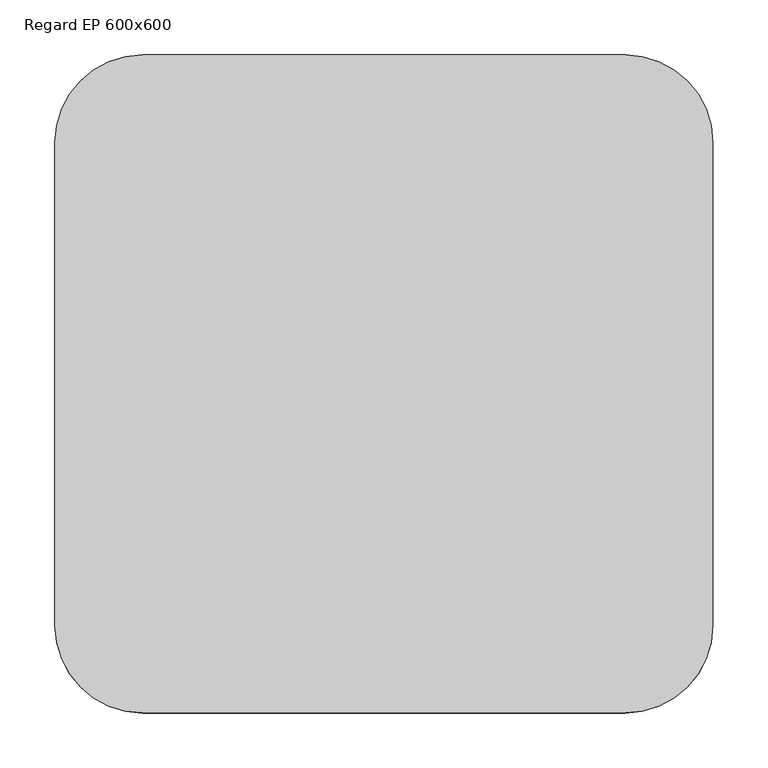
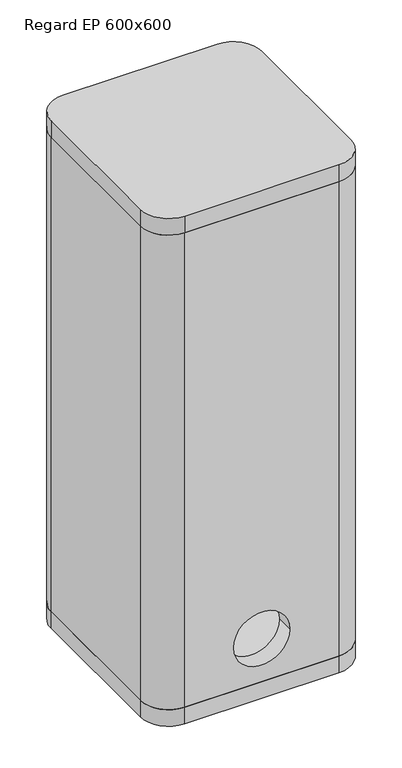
"""IFC4 building model written with IfcOpenShell, lengths in millimetres: valve geometry, Regard Eau pluviale 2 : Regard EP 600x600."""

from ifc_helpers import new_model, si_unit, point, frame, frame_2d, origin, place, context, project, spatial, polyline, circle_curve, trimmed, segment, composite_curve, outline, extrude, source, transform, mapped, element, save
from ifc_brep_helpers import plane_surface, cylinder_surface, revolved_surface, advanced_brep


def regard_ep_600x600_4da5fc17(model_context):
    return source(origin(), model_context, "Body", "SolidModel", [
        extrude(outline(composite_curve([segment(trimmed(circle_curve(frame_2d((220.0, 220.0)), 80.0), [point((220.0, 300.0))], [point((300.0, 220.0))], False, "CARTESIAN"), True, "CONTINUOUS"), segment(polyline([(300.0, 220.0), (300.0, -220.0)]), True, "CONTINUOUS"), segment(trimmed(circle_curve(frame_2d((220.0, -220.0)), 80.0), [point((300.0, -220.0))], [point((220.0, -300.0))], False, "CARTESIAN"), True, "CONTINUOUS"), segment(polyline([(220.0, -300.0), (-220.0, -300.0)]), True, "CONTINUOUS"), segment(trimmed(circle_curve(frame_2d((-220.0, -220.0)), 80.0), [point((-220.0, -300.0))], [point((-300.0, -220.0))], False, "CARTESIAN"), True, "CONTINUOUS"), segment(polyline([(-300.0, -220.0), (-300.0, 220.0)]), True, "CONTINUOUS"), segment(trimmed(circle_curve(frame_2d((-220.0, 220.0)), 80.0), [point((-300.0, 220.0))], [point((-220.0, 300.0))], False, "CARTESIAN"), True, "CONTINUOUS"), segment(polyline([(-220.0, 300.0), (220.0, 300.0)]), True, "CONTINUOUS")], self_intersect=False)), frame((0.0, 0.0, 870980.0), z_axis=(0.0, 0.0, 1.0), x_axis=(1.0, 0.0, 0.0)), (0.0, 0.0, 1.0), 50.0),
        extrude(outline(composite_curve([segment(trimmed(circle_curve(frame_2d((220.0, 220.0)), 80.0), [point((220.0, 300.0))], [point((300.0, 220.0))], False, "CARTESIAN"), True, "CONTINUOUS"), segment(polyline([(300.0, 220.0), (300.0, -220.0)]), True, "CONTINUOUS"), segment(trimmed(circle_curve(frame_2d((220.0, -220.0)), 80.0), [point((300.0, -220.0))], [point((220.0, -300.0))], False, "CARTESIAN"), True, "CONTINUOUS"), segment(polyline([(220.0, -300.0), (-220.0, -300.0)]), True, "CONTINUOUS"), segment(trimmed(circle_curve(frame_2d((-220.0, -220.0)), 80.0), [point((-220.0, -300.0))], [point((-300.0, -220.0))], False, "CARTESIAN"), True, "CONTINUOUS"), segment(polyline([(-300.0, -220.0), (-300.0, 220.0)]), True, "CONTINUOUS"), segment(trimmed(circle_curve(frame_2d((-220.0, 220.0)), 80.0), [point((-300.0, 220.0))], [point((-220.0, 300.0))], False, "CARTESIAN"), True, "CONTINUOUS"), segment(polyline([(-220.0, 300.0), (220.0, 300.0)]), True, "CONTINUOUS")], self_intersect=False)), frame((0.0, 0.0, 869500.0), z_axis=(0.0, 0.0, 1.0), x_axis=(1.0, 0.0, 0.0)), (0.0, 0.0, 1.0), 50.0),
        advanced_brep(
        [(300.0, -220.0, 870980.0), (300.0, 220.0, 870980.0), (220.0, 300.0, 870980.0), (-220.0, 300.0, 870980.0), (-300.0, 220.0, 870980.0), (-300.0, -220.0, 870980.0), (-220.0, -300.0, 870980.0), (220.0, -300.0, 870980.0), (-220.0, 250.0, 870980.0), (220.0, 250.0, 870980.0), (250.0, 220.0, 870980.0), (250.0, -220.0, 870980.0), (220.0, -250.0, 870980.0), (-220.0, -250.0, 870980.0), (-250.0, -220.0, 870980.0), (-250.0, 220.0, 870980.0), (300.0, -220.0, 869550.0), (220.0, -300.0, 869550.0), (-220.0, -300.0, 869550.0), (-300.0, -220.0, 869550.0), (-300.0, 220.0, 869550.0), (-220.0, 300.0, 869550.0), (220.0, 300.0, 869550.0), (300.0, 220.0, 869550.0), (-220.0, 250.0, 869550.0), (-250.0, 220.0, 869550.0), (-250.0, -220.0, 869550.0), (-220.0, -250.0, 869550.0), (220.0, -250.0, 869550.0), (250.0, -220.0, 869550.0), (250.0, 220.0, 869550.0), (220.0, 250.0, 869550.0), (-80.0, 300.0, 869680.0), (80.0, 300.0, 869680.0), (80.0, -300.0, 869680.0), (-80.0, -300.0, 869680.0), (80.0, -250.0, 869680.0), (-80.0, -250.0, 869680.0), (80.0, 250.0, 869680.0), (-80.0, 250.0, 869680.0)],
        [
            (0, 1),
            (1, 2, circle_curve(frame((220.0, 220.0, 870980.0), z_axis=(0.0, 0.0, 1.0), x_axis=(1.0, 0.0, 0.0)), 80.0)),
            (2, 3),
            (3, 4, circle_curve(frame((-220.0, 220.0, 870980.0), z_axis=(0.0, 0.0, 1.0), x_axis=(1.0, 0.0, 0.0)), 80.0)),
            (4, 5),
            (5, 6, circle_curve(frame((-220.0, -220.0, 870980.0), z_axis=(0.0, 0.0, 1.0), x_axis=(1.0, 0.0, 0.0)), 80.0)),
            (6, 7),
            (7, 0, circle_curve(frame((220.0, -220.0, 870980.0), z_axis=(0.0, 0.0, 1.0), x_axis=(1.0, 0.0, 0.0)), 80.0)),
            (8, 9),
            (9, 10, circle_curve(frame((220.0, 220.0, 870980.0), z_axis=(0.0, 0.0, -1.0), x_axis=(1.0, 0.0, 0.0)), 30.0)),
            (10, 11),
            (11, 12, circle_curve(frame((220.0, -220.0, 870980.0), z_axis=(0.0, 0.0, -1.0), x_axis=(1.0, 0.0, 0.0)), 30.0)),
            (12, 13),
            (13, 14, circle_curve(frame((-220.0, -220.0, 870980.0), z_axis=(0.0, 0.0, -1.0), x_axis=(1.0, 0.0, 0.0)), 30.0)),
            (14, 15),
            (15, 8, circle_curve(frame((-220.0, 220.0, 870980.0), z_axis=(0.0, 0.0, -1.0), x_axis=(1.0, 0.0, 0.0)), 30.0)),
            (16, 17, circle_curve(frame((220.0, -220.0, 869550.0), z_axis=(0.0, 0.0, -1.0), x_axis=(1.0, 0.0, 0.0)), 80.0)),
            (17, 18),
            (18, 19, circle_curve(frame((-220.0, -220.0, 869550.0), z_axis=(0.0, 0.0, -1.0), x_axis=(1.0, 0.0, 0.0)), 80.0)),
            (19, 20),
            (20, 21, circle_curve(frame((-220.0, 220.0, 869550.0), z_axis=(0.0, 0.0, -1.0), x_axis=(1.0, 0.0, 0.0)), 80.0)),
            (21, 22),
            (22, 23, circle_curve(frame((220.0, 220.0, 869550.0), z_axis=(0.0, 0.0, -1.0), x_axis=(1.0, 0.0, 0.0)), 80.0)),
            (23, 16),
            (24, 25, circle_curve(frame((-220.0, 220.0, 869550.0), z_axis=(0.0, 0.0, 1.0), x_axis=(1.0, 0.0, 0.0)), 30.0)),
            (25, 26),
            (26, 27, circle_curve(frame((-220.0, -220.0, 869550.0), z_axis=(0.0, 0.0, 1.0), x_axis=(1.0, 0.0, 0.0)), 30.0)),
            (27, 28),
            (28, 29, circle_curve(frame((220.0, -220.0, 869550.0), z_axis=(0.0, 0.0, 1.0), x_axis=(1.0, 0.0, 0.0)), 30.0)),
            (29, 30),
            (30, 31, circle_curve(frame((220.0, 220.0, 869550.0), z_axis=(0.0, 0.0, 1.0), x_axis=(1.0, 0.0, 0.0)), 30.0)),
            (31, 24),
            (0, 16),
            (23, 1),
            (2, 22),
            (21, 3),
            (32, 33, circle_curve(frame((0.0, 300.0, 869680.0), z_axis=(0.0, -1.0, 0.0), x_axis=(1.0, 0.0, 0.0)), 80.0)),
            (33, 32, circle_curve(frame((0.0, 300.0, 869680.0), z_axis=(0.0, -1.0, 0.0), x_axis=(1.0, 0.0, 0.0)), 80.0)),
            (4, 20),
            (19, 5),
            (6, 18),
            (17, 7),
            (34, 35, circle_curve(frame((0.0, -300.0, 869680.0), z_axis=(0.0, 1.0, 0.0), x_axis=(1.0, 0.0, 0.0)), 80.0)),
            (35, 34, circle_curve(frame((0.0, -300.0, 869680.0), z_axis=(0.0, 1.0, 0.0), x_axis=(1.0, 0.0, 0.0)), 80.0)),
            (34, 36),
            (36, 37, circle_curve(frame((0.0, -250.0, 869680.0), z_axis=(0.0, 1.0, 0.0), x_axis=(1.0, 0.0, 0.0)), 80.0)),
            (37, 35),
            (37, 36, circle_curve(frame((0.0, -250.0, 869680.0), z_axis=(0.0, 1.0, 0.0), x_axis=(1.0, 0.0, 0.0)), 80.0)),
            (38, 33),
            (32, 39),
            (39, 38, circle_curve(frame((0.0, 250.0, 869680.0), z_axis=(0.0, -1.0, 0.0), x_axis=(1.0, 0.0, 0.0)), 80.0)),
            (38, 39, circle_curve(frame((0.0, 250.0, 869680.0), z_axis=(0.0, -1.0, 0.0), x_axis=(1.0, 0.0, 0.0)), 80.0)),
            (8, 24),
            (31, 9),
            (30, 10),
            (29, 11),
            (28, 12),
            (27, 13),
            (26, 14),
            (25, 15),
        ],
        [
            plane_surface(frame((300.0, 220.0, 870980.0), z_axis=(0.0, 0.0, 1.0), x_axis=(0.0, 1.0, 0.0))),
            plane_surface(frame((300.0, 220.0, 869550.0), z_axis=(0.0, 0.0, -1.0), x_axis=(0.0, -1.0, 0.0))),
            plane_surface(frame((300.0, -220.0, 870980.0), z_axis=(1.0, 0.0, 0.0), x_axis=(0.0, 0.0, -1.0))),
            plane_surface(frame((220.0, 300.0, 870980.0), z_axis=(0.0, 1.0, 0.0), x_axis=(0.0, 0.0, -1.0))),
            plane_surface(frame((-300.0, 220.0, 870980.0), z_axis=(-1.0, 0.0, 0.0), x_axis=(0.0, 0.0, -1.0))),
            plane_surface(frame((-220.0, -300.0, 870980.0), z_axis=(0.0, -1.0, 0.0), x_axis=(0.0, 0.0, -1.0))),
            revolved_surface(polyline([(80.0, -300.0, 869680.0), (80.0, -250.0, 869680.0)]), (0.0, -250.0, 869680.0), (0.0, -1.0, 0.0)),
            revolved_surface(polyline([(80.0, 250.0, 869680.0), (80.0, 300.0, 869680.0)]), (0.0, 300.0, 869680.0), (0.0, -1.0, 0.0)),
            cylinder_surface(frame((220.0, 220.0, 869550.0), z_axis=(0.0, 0.0, 1.0), x_axis=(1.0, 0.0, 0.0)), 80.0),
            cylinder_surface(frame((-220.0, 220.0, 869550.0), z_axis=(0.0, 0.0, 1.0), x_axis=(1.0, 0.0, 0.0)), 80.0),
            cylinder_surface(frame((-220.0, -220.0, 869550.0), z_axis=(0.0, 0.0, 1.0), x_axis=(1.0, 0.0, 0.0)), 80.0),
            cylinder_surface(frame((220.0, -220.0, 869550.0), z_axis=(0.0, 0.0, 1.0), x_axis=(1.0, 0.0, 0.0)), 80.0),
            plane_surface(frame((-220.0, 250.0, 870980.0), z_axis=(0.0, -1.0, 0.0), x_axis=(0.0, 0.0, -1.0))),
            revolved_surface(polyline([(250.0, 220.0, 869550.0), (250.0, 220.0, 870980.0)]), (220.0, 220.0, 0.0), (0.0, 0.0, -1.0)),
            plane_surface(frame((250.0, 220.0, 870980.0), z_axis=(-1.0, 0.0, 0.0), x_axis=(0.0, 0.0, -1.0))),
            revolved_surface(polyline([(250.0, -220.0, 869550.0), (250.0, -220.0, 870980.0)]), (220.0, -220.0, 0.0), (0.0, 0.0, -1.0)),
            plane_surface(frame((220.0, -250.0, 870980.0), z_axis=(0.0, 1.0, 0.0), x_axis=(0.0, 0.0, -1.0))),
            revolved_surface(polyline([(-190.0, -220.0, 869550.0), (-190.0, -220.0, 870980.0)]), (-220.0, -220.0, 0.0), (0.0, 0.0, -1.0)),
            plane_surface(frame((-250.0, -220.0, 870980.0), z_axis=(1.0, 0.0, 0.0), x_axis=(0.0, 0.0, -1.0))),
            revolved_surface(polyline([(-190.0, 220.0, 869550.0), (-190.0, 220.0, 870980.0)]), (-220.0, 220.0, 0.0), (0.0, 0.0, -1.0)),
        ],
        [
            (0, [[1, 2, 3, 4, 5, 6, 7, 8], [9, 10, 11, 12, 13, 14, 15, 16]]),
            (1, [[17, 18, 19, 20, 21, 22, 23, 24], [25, 26, 27, 28, 29, 30, 31, 32]]),
            (2, [[-1, 33, -24, 34]]),
            (3, [[-3, 35, -22, 36], [37, 38]]),
            (4, [[-5, 39, -20, 40]]),
            (5, [[-7, 41, -18, 42], [43, 44]]),
            (6, [[45, 46, 47, -43]]),
            (6, [[-45, -44, -47, 48]]),
            (7, [[49, -37, 50, 51]]),
            (7, [[-49, 52, -50, -38]]),
            (8, [[-2, -34, -23, -35]]),
            (9, [[-4, -36, -21, -39]]),
            (10, [[-6, -40, -19, -41]]),
            (11, [[-8, -42, -17, -33]]),
            (12, [[-9, 53, -32, 54], [-51, -52]]),
            (13, [[-10, -54, -31, 55]]),
            (14, [[-11, -55, -30, 56]]),
            (15, [[-12, -56, -29, 57]]),
            (16, [[-13, -57, -28, 58], [-46, -48]]),
            (17, [[-14, -58, -27, 59]]),
            (18, [[-15, -59, -26, 60]]),
            (19, [[-16, -60, -25, -53]]),
        ],
    ),
    ])


if __name__ == "__main__":
    model = new_model("IFC4")
    model_context = context("Model", 3, world=origin())
    ifc_project = project(units=[si_unit("LENGTHUNIT", "METRE", prefix="MILLI")], contexts=[model_context])
    site = spatial("IfcSite", under=ifc_project)
    building = spatial("IfcBuilding", under=site)
    placement = place(None, origin())
    regard_ep_600x600_shape = regard_ep_600x600_4da5fc17(model_context)
    element("IfcValve", 1, ObjectType="Regard Eau pluviale 2 : Regard EP 600x600", at=placement, inside=building, context=model_context, shape_type="MappedRepresentation", body=[
        mapped(regard_ep_600x600_shape, transform((0.0, 0.0, 0.0), x_axis=(1.0, 0.0, 0.0), y_axis=(0.0, 1.0, 0.0), z_axis=(0.0, 0.0, 1.0))),
    ])
    save(model, "model.ifc")
